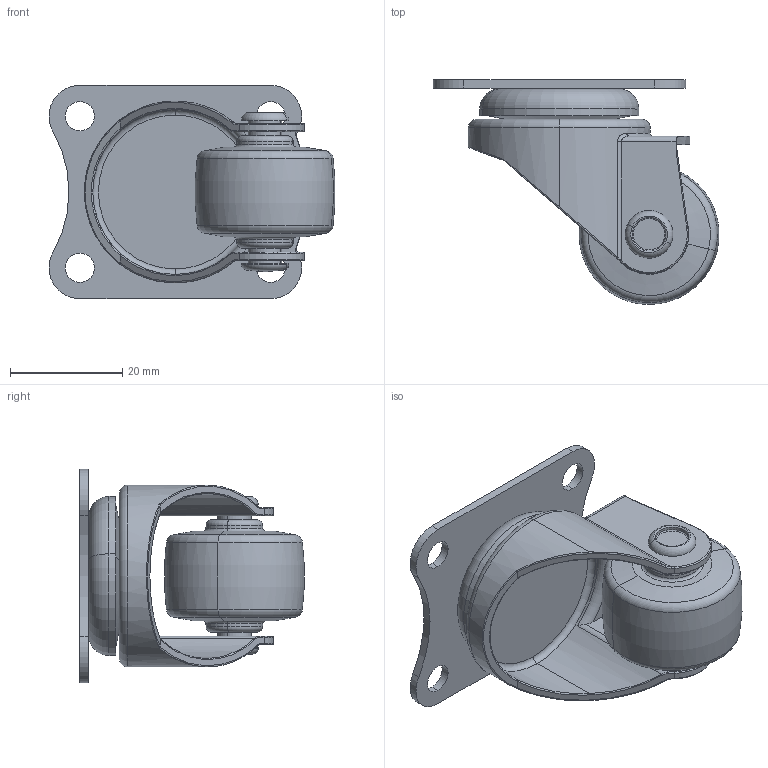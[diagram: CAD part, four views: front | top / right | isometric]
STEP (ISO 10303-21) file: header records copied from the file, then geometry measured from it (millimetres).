
FILE_DESCRIPTION (( 'STEP AP214' ), '1' );
FILE_NAME ('20111-201-52 す階勀砃.STEP', '2019-12-10T00:09:48', ( 'Owner' ), ( 'Organization' ), 'SwSTEP 2.0', 'SolidWorks 2014', '' );
FILE_SCHEMA (( 'AUTOMOTIVE_DESIGN' ));
Length unit declared in the file: millimetre
Products named in the file (6): 20111-201-52 す階勀砃; 20炵蹈 1渡穩隊; 201-11A; 200-01A 侐源; 200-03A 詩俖; 201-52 
Assembly tree (5 placements, depth 2):
  20111-201-52 す階勀砃
    200-01A 侐源
    200-03A 詩俖
    201-11A
    20炵蹈 1渡穩隊
    201-52 
Bounding box: 50.95 x 39.99 x 38 mm (x, y, z)
Volume: 16280 mm3; surface area: 13317.1 mm2
Topology: 5 solids, 5 shells, 168 faces, 380 edges, 231 vertices
Faces by surface type: cylinder 53, torus 52, plane 31, cone 16, bspline 14, sphere 2
Entity records: 5435 total; most frequent: CARTESIAN_POINT 1420, DIRECTION 874, ORIENTED_EDGE 760, AXIS2_PLACEMENT_3D 388, EDGE_CURVE 380, VERTEX_POINT 231, CIRCLE 226, EDGE_LOOP 191
